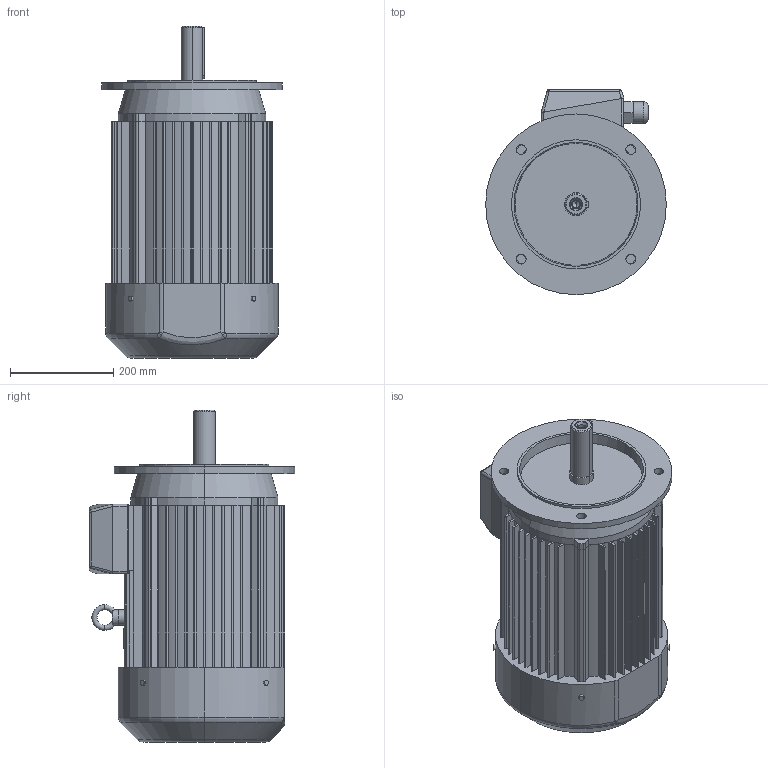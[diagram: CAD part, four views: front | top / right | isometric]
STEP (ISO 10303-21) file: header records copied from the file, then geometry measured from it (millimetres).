
FILE_DESCRIPTION (( 'STEP AP203' ), '1' );
FILE_NAME ('3SIEK160M;L.STEP', '2014-05-21T12:07:03', ( '' ), ( '' ), 'SwSTEP 2.0', 'SolidWorks 2003064', '' );
FILE_SCHEMA (( 'CONFIG_CONTROL_DESIGN' ));
Length unit declared in the file: millimetre
Products named in the file (1): 3SIEK160M;L
Bounding box: 350 x 398 x 643 mm (x, y, z)
Volume: 39156840.2 mm3; surface area: 1428839.8 mm2
Topology: 14 solids, 14 shells, 390 faces, 1015 edges, 649 vertices
Faces by surface type: cylinder 179, plane 169, torus 17, cone 16, bspline 5, sphere 4
Entity records: 15055 total; most frequent: CARTESIAN_POINT 5215, DIRECTION 2131, ORIENTED_EDGE 2014, EDGE_CURVE 1007, AXIS2_PLACEMENT_3D 779, VERTEX_POINT 649, LINE 573, VECTOR 573
